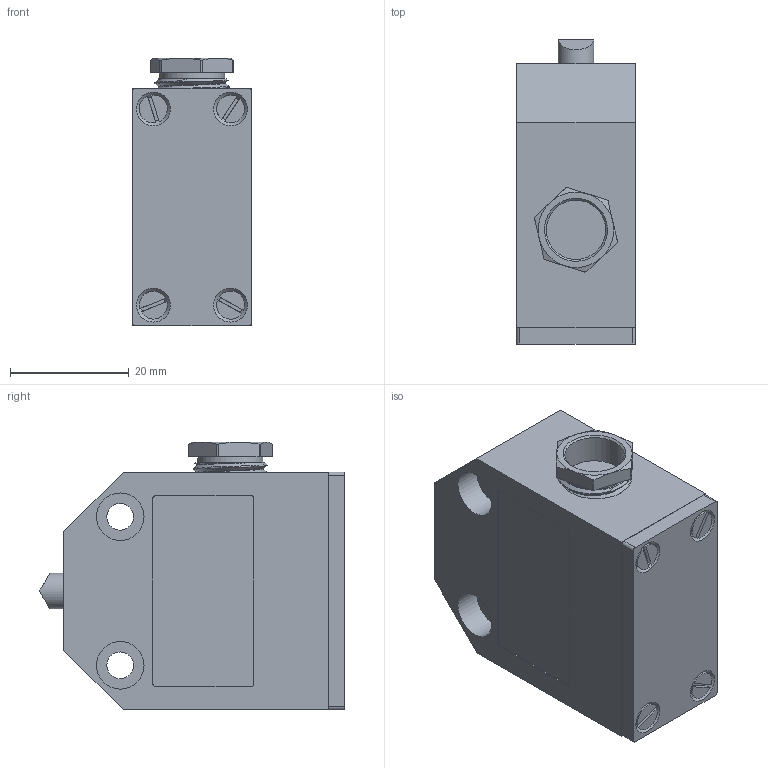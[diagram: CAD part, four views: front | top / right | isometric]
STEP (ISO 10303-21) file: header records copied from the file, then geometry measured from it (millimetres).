
FILE_DESCRIPTION(('Interruptor de Posicao Subminiatura Acionador Chanfrado Terminal Parafuso'),'2;1');
FILE_NAME('E:\WorkFolder\Serie\LQ\STEP\kp_lq_lq1d1p_step.stp','2012-05-21T09:02:03',('DIE'),('KAP'),'Autodesk Inventor 2011','Autodesk Inventor 2011','Direitos reservados. Proibido reproducao, cedencia ou revelacao de conteudo a terceiros, salvo com autorizacao. ');
FILE_SCHEMA(('AUTOMOTIVE_DESIGN { 1 0 10303 214 1 1 1 1 }'));
Length unit declared in the file: millimetre
Products named in the file (4): LQ1D1P_3D; LQ_Caixa_1P; LQ_Atuador_D; LQ_Tampa
Assembly tree (3 placements, depth 2):
  LQ1D1P_3D
    LQ_Caixa_1P
    LQ_Atuador_D
    LQ_Tampa
Bounding box: 20 x 51.25 x 45.06 mm (x, y, z)
Volume: 34559.2 mm3; surface area: 10169.9 mm2
Topology: 3 solids, 3 shells, 119 faces, 289 edges, 191 vertices
Faces by surface type: plane 65, cylinder 39, cone 12, bspline 3
Full cylindrical faces by diameter (mm): 4.5 x2, 6 x2, 8 x4, 10 x1, 11 x1
Entity records: 3991 total; most frequent: CARTESIAN_POINT 1061, DIRECTION 570, ORIENTED_EDGE 538, EDGE_CURVE 269, AXIS2_PLACEMENT_3D 222, VERTEX_POINT 186, EDGE_LOOP 153, VECTOR 126
